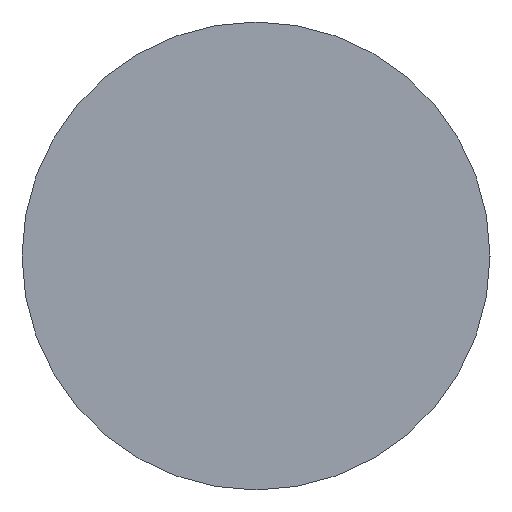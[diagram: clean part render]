
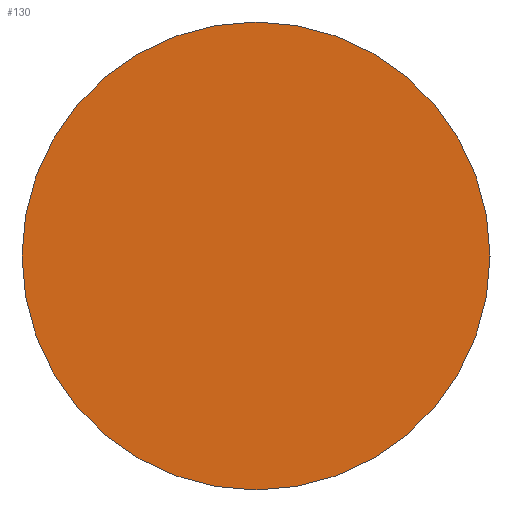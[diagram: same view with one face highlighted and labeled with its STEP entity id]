
A CAD part, left-side view. The second image highlights one B-rep face of the part: STEP entity #130.
In plain terms, the highlighted planar face has unit normal (-1, 0, 0).
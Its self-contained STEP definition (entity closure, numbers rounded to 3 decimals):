
#130=ADVANCED_FACE($,(#136),#132,.T.);
#132=PLANE($,#157);
#136=FACE_OUTER_BOUND($,#140,.T.);
#140=EDGE_LOOP($,(#150));
#141=CIRCLE($,#154,0.8);
#143=VERTEX_POINT('',#172);
#145=EDGE_CURVE($,#143,#143,#141,.T.);
#150=ORIENTED_EDGE($,*,*,#145,.T.);
#154=AXIS2_PLACEMENT_3D($,#173,#162,#163);
#157=AXIS2_PLACEMENT_3D($,#177,#168,#169);
#162=DIRECTION('',(-1.,0.,0.));
#163=DIRECTION('',(0.,0.,1.));
#168=DIRECTION('',(-1.,0.,0.));
#169=DIRECTION('',(0.,1.,0.));
#172=CARTESIAN_POINT('',(-1.85,0.0,0.0));
#173=CARTESIAN_POINT('',(-1.85,0.0,0.8));
#177=CARTESIAN_POINT('',(-1.85,0.0,0.8));
